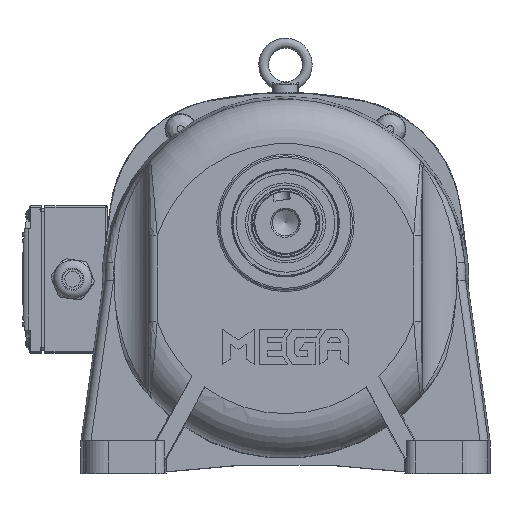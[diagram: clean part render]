
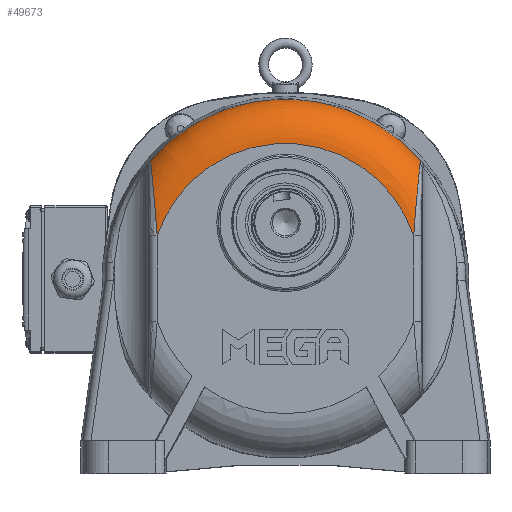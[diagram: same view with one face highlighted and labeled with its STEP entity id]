
A CAD part, top view. The second image highlights one B-rep face of the part: STEP entity #49673.
In plain terms, the highlighted toroidal (fillet/blend) face has major radius 82.608 mm and minor radius 27 mm.
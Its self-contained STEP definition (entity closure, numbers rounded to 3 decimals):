
#594=TOROIDAL_SURFACE('',#53748,82.608,27.);
#9177=FACE_OUTER_BOUND('',#12201,.T.);
#12201=EDGE_LOOP('',(#36189,#36190,#36191,#36192,#36193,#36194));
#15315=CIRCLE('',#53749,109.599);
#15316=CIRCLE('',#53750,82.608);
#17251=B_SPLINE_CURVE_WITH_KNOTS('',3,(#79594,#79595,#79596,#79597,#79598,
#79599,#79600,#79601,#79602),.UNSPECIFIED.,.F.,.F.,(4,1,1,1,1,1,4),(-4.523,
-3.23,-2.584,-1.615,-1.292,
-0.646,0.),.UNSPECIFIED.);
#17252=B_SPLINE_CURVE_WITH_KNOTS('',3,(#79625,#79626,#79627,#79628,#79629),
 .UNSPECIFIED.,.F.,.F.,(4,1,4),(-0.729,-0.416,0.),
 .UNSPECIFIED.);
#17258=B_SPLINE_CURVE_WITH_KNOTS('',3,(#79762,#79763,#79764,#79765,#79766,
#79767,#79768,#79769),.UNSPECIFIED.,.F.,.F.,(4,1,1,1,1,4),(-14.257,
-13.611,-12.965,-11.673,-11.027,
-9.735),.UNSPECIFIED.);
#17259=B_SPLINE_CURVE_WITH_KNOTS('',3,(#79771,#79772,#79773,#79774,#79775),
 .UNSPECIFIED.,.F.,.F.,(4,1,4),(-0.728,-0.312,0.),
 .UNSPECIFIED.);
#20724=VERTEX_POINT('',#79536);
#20725=VERTEX_POINT('',#79593);
#20726=VERTEX_POINT('',#79624);
#20733=VERTEX_POINT('',#79760);
#20734=VERTEX_POINT('',#79761);
#20735=VERTEX_POINT('',#79770);
#26248=EDGE_CURVE('',#20724,#20725,#17251,.T.);
#26250=EDGE_CURVE('',#20725,#20726,#17252,.T.);
#26263=EDGE_CURVE('',#20733,#20734,#17258,.T.);
#26264=EDGE_CURVE('',#20735,#20733,#17259,.T.);
#26265=EDGE_CURVE('',#20726,#20735,#15315,.F.);
#26266=EDGE_CURVE('',#20724,#20734,#15316,.T.);
#36189=ORIENTED_EDGE('',*,*,#26263,.F.);
#36190=ORIENTED_EDGE('',*,*,#26264,.F.);
#36191=ORIENTED_EDGE('',*,*,#26265,.F.);
#36192=ORIENTED_EDGE('',*,*,#26250,.F.);
#36193=ORIENTED_EDGE('',*,*,#26248,.F.);
#36194=ORIENTED_EDGE('',*,*,#26266,.T.);
#49673=ADVANCED_FACE('',(#9177),#594,.T.);
#53748=AXIS2_PLACEMENT_3D('',#79759,#62639,#62640);
#53749=AXIS2_PLACEMENT_3D('',#79776,#62641,#62642);
#53750=AXIS2_PLACEMENT_3D('',#79777,#62643,#62644);
#62639=DIRECTION('center_axis',(0.,0.,-1.));
#62640=DIRECTION('ref_axis',(-1.,0.,0.));
#62641=DIRECTION('center_axis',(0.,0.,1.));
#62642=DIRECTION('ref_axis',(-1.,0.,0.));
#62643=DIRECTION('center_axis',(0.,0.,-1.));
#62644=DIRECTION('ref_axis',(-1.,0.,0.));
#79536=CARTESIAN_POINT('',(-75.498,26.144,89.));
#79593=CARTESIAN_POINT('',(-79.326,70.065,71.261));
#79594=CARTESIAN_POINT('Ctrl Pts',(-75.498,26.144,89.));
#79595=CARTESIAN_POINT('Ctrl Pts',(-75.791,30.555,89.));
#79596=CARTESIAN_POINT('Ctrl Pts',(-76.31,37.252,88.783));
#79597=CARTESIAN_POINT('Ctrl Pts',(-77.191,47.53,87.102));
#79598=CARTESIAN_POINT('Ctrl Pts',(-77.804,54.327,84.949));
#79599=CARTESIAN_POINT('Ctrl Pts',(-78.401,60.781,81.509));
#79600=CARTESIAN_POINT('Ctrl Pts',(-78.875,65.769,77.758));
#79601=CARTESIAN_POINT('Ctrl Pts',(-79.196,68.909,73.584));
#79602=CARTESIAN_POINT('Ctrl Pts',(-79.326,70.065,71.261));
#79624=CARTESIAN_POINT('',(-80.638,71.037,62.707));
#79625=CARTESIAN_POINT('Ctrl Pts',(-79.326,70.065,71.261));
#79626=CARTESIAN_POINT('Ctrl Pts',(-79.389,70.623,70.139));
#79627=CARTESIAN_POINT('Ctrl Pts',(-79.642,71.608,67.303));
#79628=CARTESIAN_POINT('Ctrl Pts',(-80.235,71.447,64.271));
#79629=CARTESIAN_POINT('Ctrl Pts',(-80.638,71.037,62.707));
#79759=CARTESIAN_POINT('Origin',(2.891,0.08,62.));
#79760=CARTESIAN_POINT('',(85.108,70.065,71.261));
#79761=CARTESIAN_POINT('',(81.279,26.144,89.));
#79762=CARTESIAN_POINT('Ctrl Pts',(85.108,70.065,71.261));
#79763=CARTESIAN_POINT('Ctrl Pts',(84.978,68.909,73.584));
#79764=CARTESIAN_POINT('Ctrl Pts',(84.657,65.779,77.747));
#79765=CARTESIAN_POINT('Ctrl Pts',(83.901,57.807,83.745));
#79766=CARTESIAN_POINT('Ctrl Pts',(83.068,48.639,86.924));
#79767=CARTESIAN_POINT('Ctrl Pts',(82.097,37.319,88.774));
#79768=CARTESIAN_POINT('Ctrl Pts',(81.573,30.559,89.));
#79769=CARTESIAN_POINT('Ctrl Pts',(81.279,26.144,89.));
#79770=CARTESIAN_POINT('',(86.419,71.037,62.707));
#79771=CARTESIAN_POINT('Ctrl Pts',(86.419,71.037,62.707));
#79772=CARTESIAN_POINT('Ctrl Pts',(86.017,71.447,64.271));
#79773=CARTESIAN_POINT('Ctrl Pts',(85.43,71.614,67.263));
#79774=CARTESIAN_POINT('Ctrl Pts',(85.171,70.623,70.139));
#79775=CARTESIAN_POINT('Ctrl Pts',(85.108,70.065,71.261));
#79776=CARTESIAN_POINT('Origin',(2.891,0.08,62.707));
#79777=CARTESIAN_POINT('Origin',(2.891,0.08,89.));
